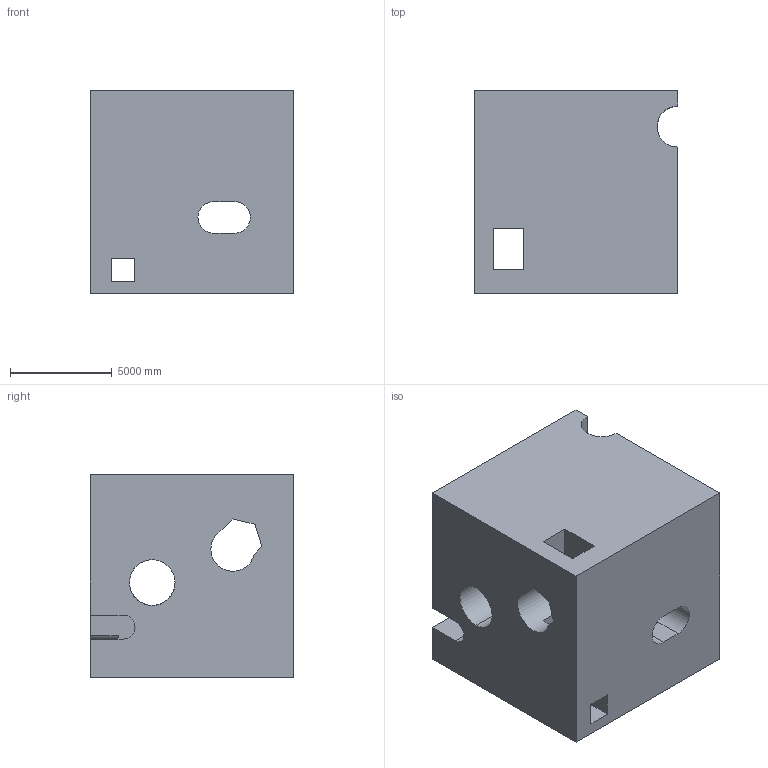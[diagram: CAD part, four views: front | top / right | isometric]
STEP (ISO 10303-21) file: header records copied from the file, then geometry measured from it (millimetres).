
FILE_DESCRIPTION (( 'STEP AP203' ), '1' );
FILE_NAME ('1834.STEP', '2022-08-19T13:21:16', ( 'user' ), ( '' ), 'SwSTEP 2.0', 'SolidWorks 2021', '' );
FILE_SCHEMA (( 'CONFIG_CONTROL_DESIGN' ));
Length unit declared in the file: centimetre
Products named in the file (1): 1834
Bounding box: 10000 x 10000 x 10000 mm (x, y, z)
Volume: 817370032708.7 mm3; surface area: 883157166 mm2
Topology: 1 solids, 1 shells, 48 faces, 153 edges, 102 vertices
Faces by surface type: plane 37, cylinder 11
Entity records: 2356 total; most frequent: CARTESIAN_POINT 879, ORIENTED_EDGE 306, DIRECTION 271, EDGE_CURVE 153, VECTOR 123, LINE 123, VERTEX_POINT 102, AXIS2_PLACEMENT_3D 74
